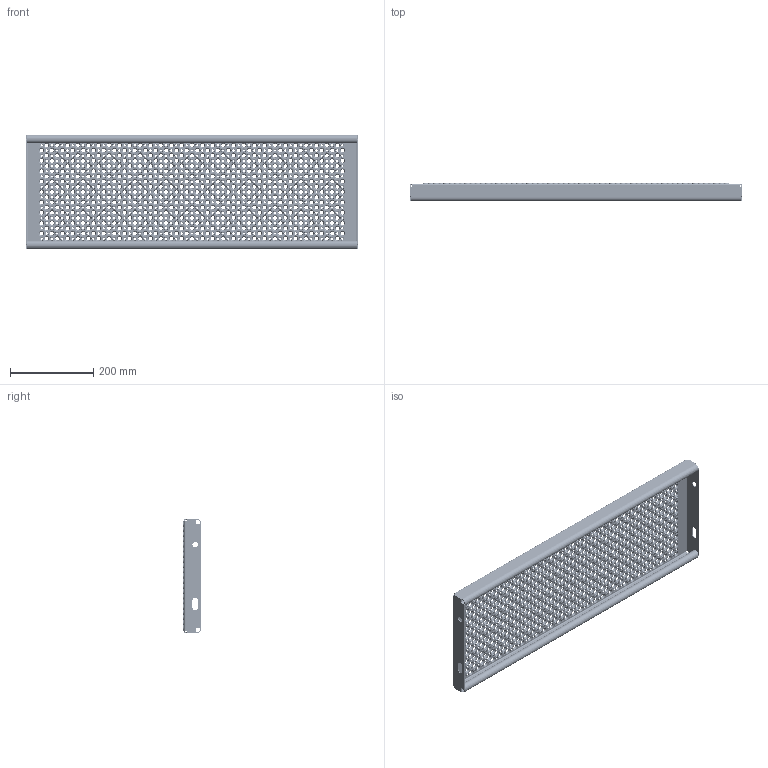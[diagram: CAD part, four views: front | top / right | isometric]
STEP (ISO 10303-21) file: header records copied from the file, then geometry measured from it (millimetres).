
FILE_DESCRIPTION (( 'STEP AP214' ), '1' );
FILE_NAME ('OPTIMO-Tread-Achil-O2-800x275x45x2-st240-F100420100.STEP', '2021-03-17T13:00:47', ( '' ), ( '' ), 'SwSTEP 2.0', 'SolidWorks 2021', '' );
FILE_SCHEMA (( 'AUTOMOTIVE_DESIGN' ));
Products named in the file (1): OPTIMO-Tread-Achil-O2-800x275x45x2-st240-F100420100
Bounding box: 800 x 45 x 275 mm (x, y, z)
Volume: 731497.5 mm3; surface area: 797397.7 mm2
Topology: 1 solids, 1 shells, 12472 faces, 32414 edges, 19944 vertices
Faces by surface type: cone 7434, torus 4956, plane 38, cylinder 36, bspline 8
Entity records: 396916 total; most frequent: DIRECTION 82148, CARTESIAN_POINT 65423, ORIENTED_EDGE 64828, AXIS2_PLACEMENT_3D 37301, EDGE_CURVE 32414, CIRCLE 24836, VERTEX_POINT 19944, EDGE_LOOP 14958
